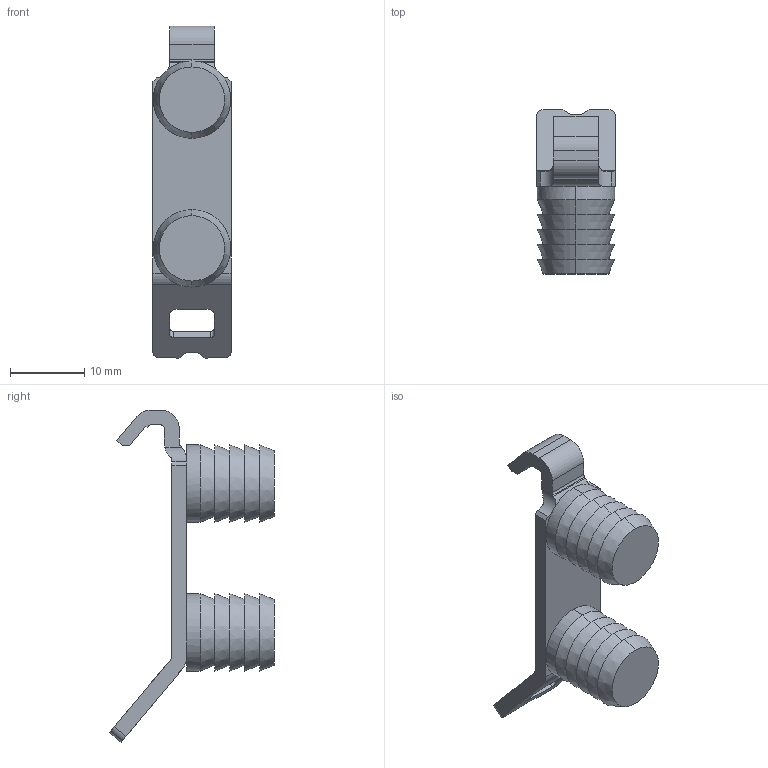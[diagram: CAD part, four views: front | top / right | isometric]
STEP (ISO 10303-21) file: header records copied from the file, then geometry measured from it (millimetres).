
FILE_DESCRIPTION (( 'STEP AP214' ), '1' );
FILE_NAME ('_Einhaengehaken_H63_Einpressvariante.step', '2010-07-15T07:47:12', ( 'grass' ), ( '' ), 'SwSTEP 2.0', 'SolidWorks 2009', '' );
FILE_SCHEMA (( 'AUTOMOTIVE_DESIGN' ));
Length unit declared in the file: millimetre
Products named in the file (1): _Einhaengehaken_H63_Einpressvariante
Bounding box: 10.5 x 22.16 x 44.64 mm (x, y, z)
Volume: 2574 mm3; surface area: 2253 mm2
Topology: 1 solids, 1 shells, 102 faces, 258 edges, 166 vertices
Faces by surface type: plane 46, cylinder 32, cone 24
Entity records: 3164 total; most frequent: CARTESIAN_POINT 609, DIRECTION 550, ORIENTED_EDGE 516, EDGE_CURVE 258, AXIS2_PLACEMENT_3D 203, VERTEX_POINT 166, VECTOR 144, LINE 144
